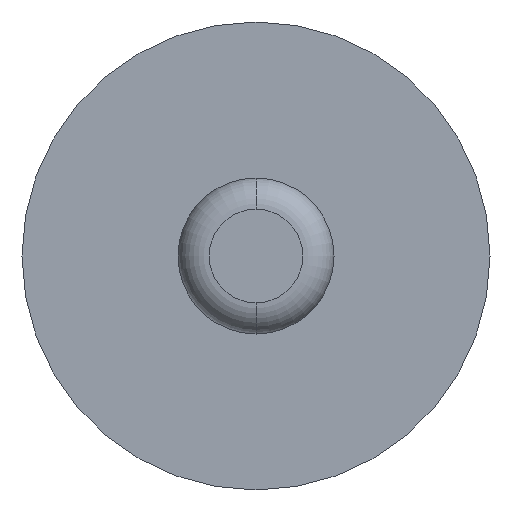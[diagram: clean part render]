
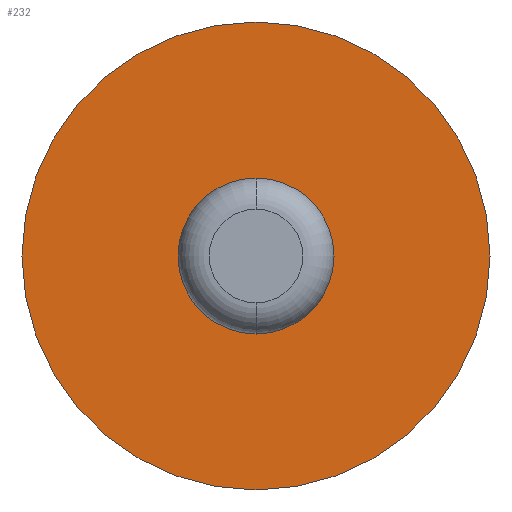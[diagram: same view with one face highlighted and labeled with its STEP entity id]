
A CAD part, front view. The second image highlights one B-rep face of the part: STEP entity #232.
In plain terms, the highlighted planar face has unit normal (0, -1, 0).
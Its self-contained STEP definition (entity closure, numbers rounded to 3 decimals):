
#17 = DIRECTION ( 'NONE',  ( 0., 0., 1. ) ) ;
#20 = VERTEX_POINT ( 'NONE', #270 ) ;
#33 = CARTESIAN_POINT ( 'NONE',  ( 0., 5.85, 0.5 ) ) ;
#34 = CIRCLE ( 'NONE', #128, 0.5 ) ;
#44 = ORIENTED_EDGE ( 'NONE', *, *, #271, .F. ) ;
#77 = FACE_BOUND ( 'NONE', #236, .T. ) ;
#82 = DIRECTION ( 'NONE',  ( 0., 0., 1. ) ) ;
#83 = CARTESIAN_POINT ( 'NONE',  ( 0., 5.85, 0. ) ) ;
#86 = DIRECTION ( 'NONE',  ( 0., -1., 0. ) ) ;
#87 = DIRECTION ( 'NONE',  ( 0., 0., 1. ) ) ;
#95 = PLANE ( 'NONE',  #243 ) ;
#102 = CIRCLE ( 'NONE', #219, 1.5 ) ;
#103 = DIRECTION ( 'NONE',  ( 0., 1., 0. ) ) ;
#104 = CARTESIAN_POINT ( 'NONE',  ( 0., 5.85, -0.5 ) ) ;
#119 = EDGE_LOOP ( 'NONE', ( #228, #44 ) ) ;
#126 = EDGE_CURVE ( 'NONE', #248, #263, #34, .T. ) ;
#128 = AXIS2_PLACEMENT_3D ( 'NONE', #83, #86, #87 ) ;
#136 = AXIS2_PLACEMENT_3D ( 'NONE', #370, #315, #362 ) ;
#185 = FACE_OUTER_BOUND ( 'NONE', #119, .T. ) ;
#219 = AXIS2_PLACEMENT_3D ( 'NONE', #295, #103, #17 ) ;
#228 = ORIENTED_EDGE ( 'NONE', *, *, #247, .F. ) ;
#232 = ADVANCED_FACE ( 'NONE', ( #185, #77 ), #95, .F. ) ;
#236 = EDGE_LOOP ( 'NONE', ( #284, #333 ) ) ;
#243 = AXIS2_PLACEMENT_3D ( 'NONE', #274, #365, #82 ) ;
#247 = EDGE_CURVE ( 'NONE', #20, #272, #102, .T. ) ;
#248 = VERTEX_POINT ( 'NONE', #104 ) ;
#263 = VERTEX_POINT ( 'NONE', #33 ) ;
#269 = CIRCLE ( 'NONE', #136, 0.5 ) ;
#270 = CARTESIAN_POINT ( 'NONE',  ( 0., 5.85, 1.5 ) ) ;
#271 = EDGE_CURVE ( 'NONE', #272, #20, #306, .T. ) ;
#272 = VERTEX_POINT ( 'NONE', #403 ) ;
#274 = CARTESIAN_POINT ( 'NONE',  ( 0., 5.85, 0. ) ) ;
#284 = ORIENTED_EDGE ( 'NONE', *, *, #126, .F. ) ;
#295 = CARTESIAN_POINT ( 'NONE',  ( 0., 5.85, 0. ) ) ;
#306 = CIRCLE ( 'NONE', #310, 1.5 ) ;
#310 = AXIS2_PLACEMENT_3D ( 'NONE', #393, #390, #389 ) ;
#315 = DIRECTION ( 'NONE',  ( 0., -1., 0. ) ) ;
#321 = EDGE_CURVE ( 'NONE', #263, #248, #269, .T. ) ;
#333 = ORIENTED_EDGE ( 'NONE', *, *, #321, .F. ) ;
#362 = DIRECTION ( 'NONE',  ( 0., 0., 1. ) ) ;
#365 = DIRECTION ( 'NONE',  ( 0., 1., 0. ) ) ;
#370 = CARTESIAN_POINT ( 'NONE',  ( 0., 5.85, 0. ) ) ;
#389 = DIRECTION ( 'NONE',  ( 0., 0., 1. ) ) ;
#390 = DIRECTION ( 'NONE',  ( 0., 1., 0. ) ) ;
#393 = CARTESIAN_POINT ( 'NONE',  ( 0., 5.85, 0. ) ) ;
#403 = CARTESIAN_POINT ( 'NONE',  ( 0., 5.85, -1.5 ) ) ;
